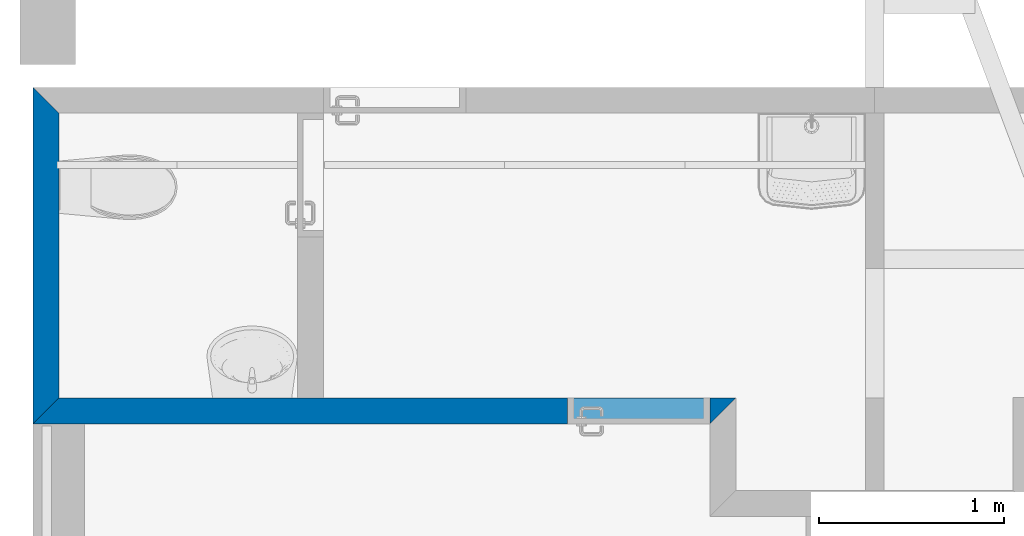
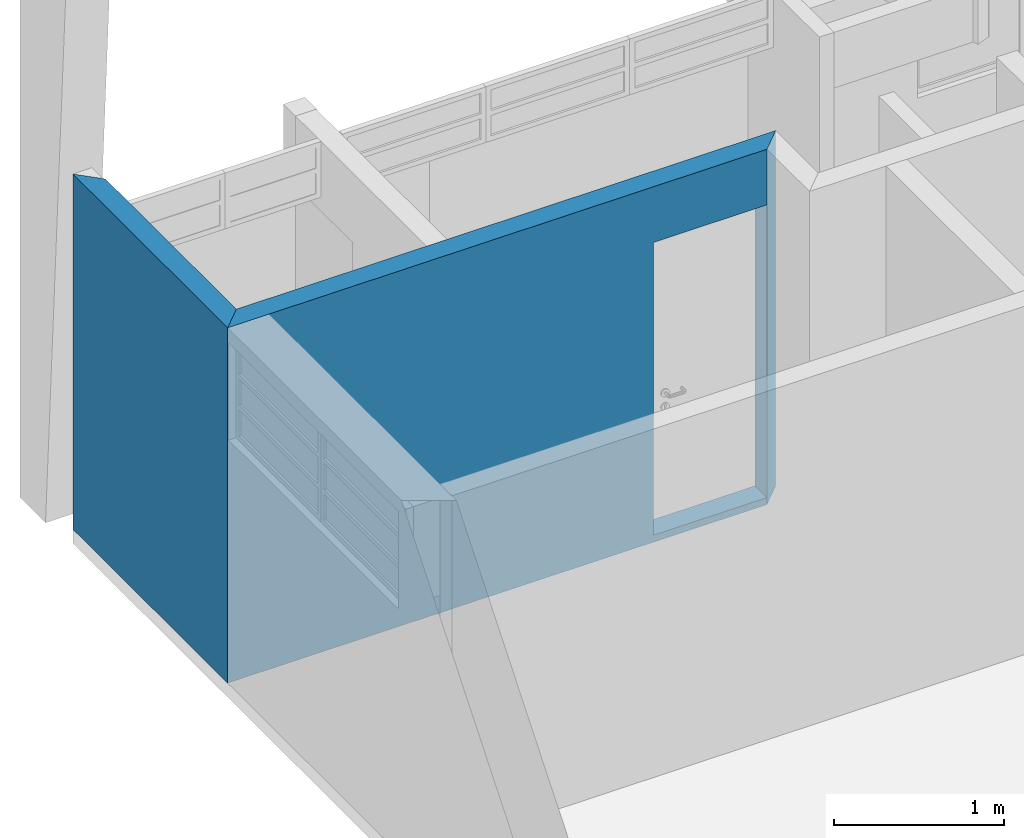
# One storey, part 4 of 16: 2 walls, 1 opening.
"""IFC2X3 building model written with IfcOpenShell, lengths in millimetres."""

from ifc_helpers import new_model, entity, si_unit, converted_unit, derived_unit, money_unit, direction, frame, origin_with_axes, origin_2d_with_axis, place, context, subcontext, project, spatial, polyline, rectangle, outline, extrude, material, layer, layer_set, layer_usage, type_object, element, save


model = new_model("IFC2X3")

# Units and contexts
model_context = context("Model", 3, precision=0.01, world=origin_with_axes(), true_north=direction((0.293984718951, 0.955810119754)))
body_context = subcontext(model_context, "Body", "Model", "MODEL_VIEW")
ifc_project = project(units=[si_unit("LENGTHUNIT", "METRE", prefix="MILLI"), si_unit("AREAUNIT", "SQUARE_METRE"), si_unit("VOLUMEUNIT", "CUBIC_METRE"), converted_unit("PLANEANGLEUNIT", "DEGREE", entity("IfcPlaneAngleMeasure", 0.0174532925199), si_unit("PLANEANGLEUNIT", "RADIAN"), dimensions=[0, 0, 0, 0, 0, 0, 0]), si_unit("SOLIDANGLEUNIT", "STERADIAN"), money_unit("USD"), converted_unit("TIMEUNIT", "Year", entity("IfcTimeMeasure", 31556926.0), si_unit("TIMEUNIT", "SECOND"), dimensions=[0, 0, 1, 0, 0, 0, 0]), si_unit("MASSUNIT", "GRAM", prefix="KILO"), si_unit("THERMODYNAMICTEMPERATUREUNIT", "DEGREE_CELSIUS"), si_unit("LUMINOUSINTENSITYUNIT", "LUMEN"), si_unit("ENERGYUNIT", "JOULE", prefix="MEGA"), derived_unit("THERMALCONDUCTANCEUNIT", [(si_unit("POWERUNIT", "WATT"), 1), (si_unit("LENGTHUNIT", "METRE"), -1), (si_unit("THERMODYNAMICTEMPERATUREUNIT", "KELVIN"), -1)]), derived_unit("SPECIFICHEATCAPACITYUNIT", [(si_unit("ENERGYUNIT", "JOULE"), 1), (si_unit("MASSUNIT", "GRAM", prefix="KILO"), -1), (si_unit("THERMODYNAMICTEMPERATUREUNIT", "KELVIN"), -1)]), derived_unit("MASSDENSITYUNIT", [(si_unit("MASSUNIT", "GRAM", prefix="KILO"), 1), (si_unit("VOLUMEUNIT", "CUBIC_METRE"), -1)])], contexts=[model_context])

# Site, building, storey
site_placement = place(None, origin_with_axes())
site = spatial("IfcSite", under=ifc_project, at=site_placement, Name="Local", CompositionType="ELEMENT")
building_placement = place(site_placement, origin_with_axes())
building = spatial("IfcBuilding", under=site, at=building_placement, Name="Construção", CompositionType="ELEMENT")
storey_placement = place(building_placement, origin_with_axes())
storey = spatial("IfcBuildingStorey", under=building, at=storey_placement, Name="Pavimento Térreo", CompositionType="ELEMENT", Elevation=0.0)

# Wall, opening
ifc_material_1 = material(Name="Reboco (1)")
ifc_layer_1 = layer(ifc_material_1, 20.0, ventilated="UNKNOWN")
ifc_material_2 = material(Name="Tijolo - Estrutural (1)")
ifc_layer_2 = layer(ifc_material_2, 100.0, ventilated="UNKNOWN")
ifc_layer_3 = layer(ifc_material_1, 20.0, ventilated="UNKNOWN")
ifc_layer_set = layer_set([ifc_layer_1, ifc_layer_2, ifc_layer_3], Name="Alvenaria Tijolo Maciço com Revestimento 14cm")
ifc_layer_usage_1 = layer_usage(ifc_layer_set, "AXIS2", "NEGATIVE", 70.0)
wall_type = type_object("IfcWallType", Name="Alvenaria Tijolo Maciço com Revestimento 14cm 140", PredefinedType="NOTDEFINED")
wall_1_placement = place(storey_placement, frame((7079.64507267, 11050.6321979, 50.0), z_axis=(0.0, 0.0, 1.0), x_axis=(1.0, 0.0, 0.0)))
wall_1 = element("IfcWallStandardCase", 1, at=wall_1_placement, inside=storey, type_object=wall_type, material=ifc_layer_usage_1, Name="Parede", context=body_context, shape_type="SweptSolid", body=[
    extrude(outline(polyline([(0.0, -70.0), (3659.99999997, -70.0), (3799.99999997, 70.0), (140.0, 70.0), (0.0, -70.0)])), origin_with_axes(), (0.0, 0.0, 1.0), 2550.0),
])
opening_placement = place(wall_1_placement, frame((3274.99999997, 0.0, 50.0), z_axis=(0.0, 0.0, 1.0), x_axis=(1.0, 0.0, 0.0)))
element("IfcOpeningElement", 2, at=opening_placement, cuts=wall_1, Name="P02", context=body_context, shape_type="SweptSolid", body=[
    extrude(rectangle(XDim=770.0, YDim=2100.0, at=origin_2d_with_axis()), frame((0.0, 140.0, 1050.0), z_axis=(0.0, 1.0, 0.0), x_axis=(1.0, 0.0, 0.0)), (0.0, 0.0, -1.0), 420.0),
])

# Wall
ifc_layer_usage_2 = layer_usage(ifc_layer_set, "AXIS2", "NEGATIVE", 0.0)
wall_2_placement = place(storey_placement, frame((7079.64507267, 11050.6321979, 50.0), z_axis=(0.0, 0.0, 1.0), x_axis=(0.0, 1.0, 0.0)))
element("IfcWallStandardCase", 3, at=wall_2_placement, inside=storey, type_object=wall_type, material=ifc_layer_usage_2, Name="Parede", context=body_context, shape_type="SweptSolid", body=[
    extrude(outline(polyline([(70.0, -140.0), (1610.0, -140.0), (1750.0, 0.0), (-70.0, 0.0), (70.0, -140.0)])), origin_with_axes(), (0.0, 0.0, 1.0), 2550.0),
])

save(model, "model.ifc")
